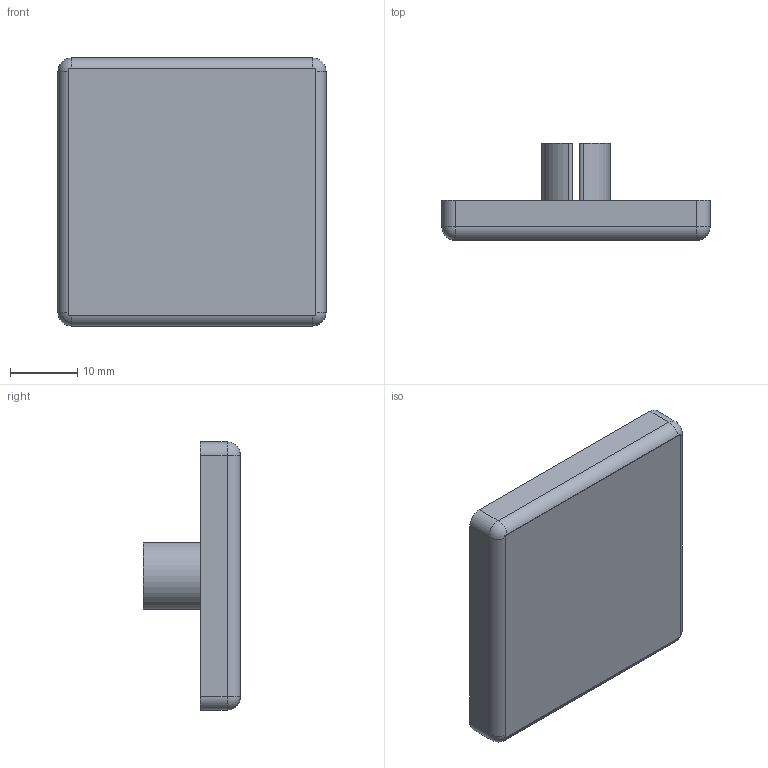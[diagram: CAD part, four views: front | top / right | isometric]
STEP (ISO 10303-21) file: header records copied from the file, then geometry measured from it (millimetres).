
FILE_DESCRIPTION (( 'STEP AP214' ), '1' );
FILE_NAME ('4003.STEP', '2017-08-10T06:12:06', ( '' ), ( '' ), 'SwSTEP 2.0', 'SolidWorks 2014', '' );
FILE_SCHEMA (( 'AUTOMOTIVE_DESIGN' ));
Length unit declared in the file: millimetre
Products named in the file (2): 4003
Bounding box: 40 x 14.5 x 40 mm (x, y, z)
Volume: 7733.5 mm3; surface area: 4775.6 mm2
Topology: 1 solids, 1 shells, 51 faces, 130 edges, 84 vertices
Faces by surface type: cylinder 26, plane 21, sphere 4
Entity records: 1609 total; most frequent: DIRECTION 296, CARTESIAN_POINT 267, ORIENTED_EDGE 260, EDGE_CURVE 130, AXIS2_PLACEMENT_3D 113, VERTEX_POINT 84, LINE 70, VECTOR 70
